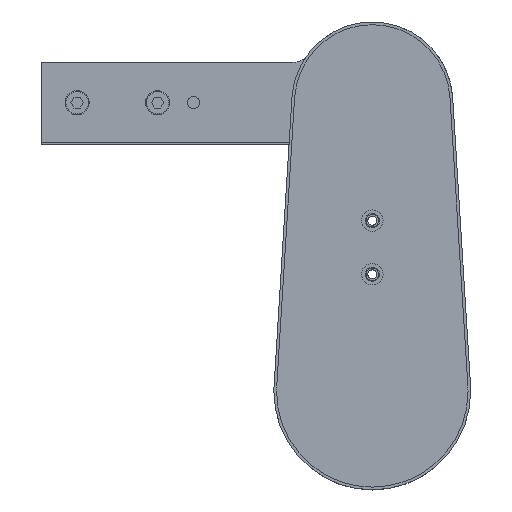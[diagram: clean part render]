
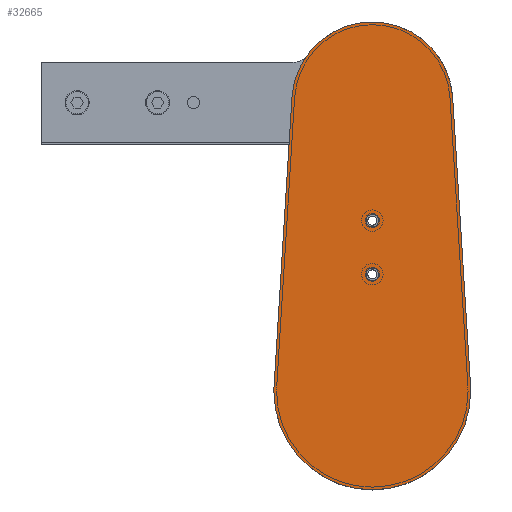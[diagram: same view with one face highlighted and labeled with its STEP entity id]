
A CAD part, top view. The second image highlights one B-rep face of the part: STEP entity #32665.
In plain terms, the highlighted planar face has unit normal (0, 0, 1) as drawn and (0, 0, -1) by its records, which use the part's own axes.
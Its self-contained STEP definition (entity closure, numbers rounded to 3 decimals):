
#63 = DIRECTION ( 'NONE',  ( 0., 0., 1. ) ) ;
#346 = CARTESIAN_POINT ( 'NONE',  ( 3.5, 65.5, 0. ) ) ;
#546 = LINE ( 'NONE', #58924, #76427 ) ;
#1185 = CIRCLE ( 'NONE', #63719, 3.5 ) ;
#1429 = DIRECTION ( 'NONE',  ( 0., 0., -1. ) ) ;
#2747 = VERTEX_POINT ( 'NONE', #26529 ) ;
#4205 = AXIS2_PLACEMENT_3D ( 'NONE', #32226, #63354, #25616 ) ;
#4564 = ORIENTED_EDGE ( 'NONE', *, *, #29094, .F. ) ;
#8825 = CARTESIAN_POINT ( 'NONE',  ( -3.5, 95.5, 0. ) ) ;
#9087 = DIRECTION ( 'NONE',  ( -0.062, -0.998, 0. ) ) ;
#10359 = VERTEX_POINT ( 'NONE', #75363 ) ;
#10367 = DIRECTION ( 'NONE',  ( 0., 0., -1. ) ) ;
#10484 = EDGE_CURVE ( 'NONE', #2747, #52591, #33472, .T. ) ;
#12067 = ORIENTED_EDGE ( 'NONE', *, *, #10484, .F. ) ;
#12621 = AXIS2_PLACEMENT_3D ( 'NONE', #74796, #81143, #45019 ) ;
#12798 = DIRECTION ( 'NONE',  ( 1., 0., 0. ) ) ;
#12806 = CARTESIAN_POINT ( 'NONE',  ( 0., 95.5, 0. ) ) ;
#14133 = CARTESIAN_POINT ( 'NONE',  ( 0., 161.5, 0. ) ) ;
#15037 = AXIS2_PLACEMENT_3D ( 'NONE', #14133, #70785, #64764 ) ;
#20277 = VERTEX_POINT ( 'NONE', #8825 ) ;
#20291 = EDGE_CURVE ( 'NONE', #36139, #2747, #546, .T. ) ;
#20722 = CARTESIAN_POINT ( 'NONE',  ( 0., 65.5, 0. ) ) ;
#21751 = CIRCLE ( 'NONE', #47002, 3.5 ) ;
#21978 = EDGE_LOOP ( 'NONE', ( #38850, #40566, #4564, #53819, #12067, #46138 ) ) ;
#23803 = EDGE_CURVE ( 'NONE', #66518, #70342, #53024, .T. ) ;
#25616 = DIRECTION ( 'NONE',  ( 1., 0., 0. ) ) ;
#25821 = ORIENTED_EDGE ( 'NONE', *, *, #28563, .F. ) ;
#26529 = CARTESIAN_POINT ( 'NONE',  ( -54.894, 3.406, 0. ) ) ;
#28390 = CIRCLE ( 'NONE', #12621, 55. ) ;
#28563 = EDGE_CURVE ( 'NONE', #71960, #10359, #1185, .T. ) ;
#29094 = EDGE_CURVE ( 'NONE', #45259, #66518, #72996, .T. ) ;
#30238 = CARTESIAN_POINT ( 'NONE',  ( 3.5, 95.5, 0. ) ) ;
#31252 = CARTESIAN_POINT ( 'NONE',  ( 55., 0., 0. ) ) ;
#31487 = ORIENTED_EDGE ( 'NONE', *, *, #71666, .F. ) ;
#32226 = CARTESIAN_POINT ( 'NONE',  ( 0., 65.5, 0. ) ) ;
#32665 = ADVANCED_FACE ( 'NONE', ( #67751, #39125, #64784 ), #76577, .F. ) ;
#33084 = DIRECTION ( 'NONE',  ( 1., 0., 0. ) ) ;
#33472 = CIRCLE ( 'NONE', #81761, 55. ) ;
#34082 = ORIENTED_EDGE ( 'NONE', *, *, #69785, .F. ) ;
#36139 = VERTEX_POINT ( 'NONE', #49515 ) ;
#36191 = DIRECTION ( 'NONE',  ( 1., 0., 0. ) ) ;
#36254 = CIRCLE ( 'NONE', #56260, 3.5 ) ;
#37276 = CIRCLE ( 'NONE', #4205, 3.5 ) ;
#38850 = ORIENTED_EDGE ( 'NONE', *, *, #55080, .F. ) ;
#39077 = CIRCLE ( 'NONE', #44079, 45. ) ;
#39125 = FACE_BOUND ( 'NONE', #52758, .T. ) ;
#40566 = ORIENTED_EDGE ( 'NONE', *, *, #23803, .F. ) ;
#40891 = CARTESIAN_POINT ( 'NONE',  ( 44.914, 164.286, 0. ) ) ;
#41570 = EDGE_CURVE ( 'NONE', #20277, #72533, #36254, .T. ) ;
#43096 = VECTOR ( 'NONE', #48266, 1000. ) ;
#44079 = AXIS2_PLACEMENT_3D ( 'NONE', #50468, #63, #12798 ) ;
#44140 = DIRECTION ( 'NONE',  ( 1., 0., 0. ) ) ;
#45019 = DIRECTION ( 'NONE',  ( 1., 0., 0. ) ) ;
#45259 = VERTEX_POINT ( 'NONE', #31252 ) ;
#45593 = DIRECTION ( 'NONE',  ( 1., 0., 0. ) ) ;
#45646 = CARTESIAN_POINT ( 'NONE',  ( -55., 0., 0. ) ) ;
#46138 = ORIENTED_EDGE ( 'NONE', *, *, #20291, .F. ) ;
#47002 = AXIS2_PLACEMENT_3D ( 'NONE', #66803, #10367, #36191 ) ;
#47283 = DIRECTION ( 'NONE',  ( 0., 0., 1. ) ) ;
#48266 = DIRECTION ( 'NONE',  ( -0.062, 0.998, 0. ) ) ;
#49515 = CARTESIAN_POINT ( 'NONE',  ( -44.914, 164.286, 0. ) ) ;
#50210 = DIRECTION ( 'NONE',  ( 0., 0., -1. ) ) ;
#50468 = CARTESIAN_POINT ( 'NONE',  ( 0., 161.5, 0. ) ) ;
#52510 = CARTESIAN_POINT ( 'NONE',  ( 0., 0., 0. ) ) ;
#52591 = VERTEX_POINT ( 'NONE', #45646 ) ;
#52758 = EDGE_LOOP ( 'NONE', ( #25821, #34082 ) ) ;
#53024 = LINE ( 'NONE', #66709, #43096 ) ;
#53645 = DIRECTION ( 'NONE',  ( 1., 0., 0. ) ) ;
#53819 = ORIENTED_EDGE ( 'NONE', *, *, #77948, .F. ) ;
#55080 = EDGE_CURVE ( 'NONE', #70342, #36139, #39077, .T. ) ;
#56260 = AXIS2_PLACEMENT_3D ( 'NONE', #12806, #50210, #44140 ) ;
#58924 = CARTESIAN_POINT ( 'NONE',  ( -44.914, 164.286, 0. ) ) ;
#63354 = DIRECTION ( 'NONE',  ( 0., 0., -1. ) ) ;
#63719 = AXIS2_PLACEMENT_3D ( 'NONE', #20722, #1429, #33084 ) ;
#64764 = DIRECTION ( 'NONE',  ( 1., 0., 0. ) ) ;
#64784 = FACE_OUTER_BOUND ( 'NONE', #21978, .T. ) ;
#66518 = VERTEX_POINT ( 'NONE', #75924 ) ;
#66709 = CARTESIAN_POINT ( 'NONE',  ( 44.914, 164.286, 0. ) ) ;
#66803 = CARTESIAN_POINT ( 'NONE',  ( 0., 95.5, 0. ) ) ;
#67188 = ORIENTED_EDGE ( 'NONE', *, *, #41570, .F. ) ;
#67467 = AXIS2_PLACEMENT_3D ( 'NONE', #78684, #47283, #53645 ) ;
#67751 = FACE_BOUND ( 'NONE', #77319, .T. ) ;
#69785 = EDGE_CURVE ( 'NONE', #10359, #71960, #37276, .T. ) ;
#70342 = VERTEX_POINT ( 'NONE', #40891 ) ;
#70785 = DIRECTION ( 'NONE',  ( 0., 0., 1. ) ) ;
#71666 = EDGE_CURVE ( 'NONE', #72533, #20277, #21751, .T. ) ;
#71960 = VERTEX_POINT ( 'NONE', #346 ) ;
#72533 = VERTEX_POINT ( 'NONE', #30238 ) ;
#72996 = CIRCLE ( 'NONE', #67467, 55. ) ;
#74796 = CARTESIAN_POINT ( 'NONE',  ( 0., 0., 0. ) ) ;
#75363 = CARTESIAN_POINT ( 'NONE',  ( -3.5, 65.5, 0. ) ) ;
#75924 = CARTESIAN_POINT ( 'NONE',  ( 54.894, 3.406, 0. ) ) ;
#76427 = VECTOR ( 'NONE', #9087, 1000. ) ;
#76577 = PLANE ( 'NONE',  #15037 ) ;
#76997 = DIRECTION ( 'NONE',  ( 0., 0., 1. ) ) ;
#77319 = EDGE_LOOP ( 'NONE', ( #31487, #67188 ) ) ;
#77948 = EDGE_CURVE ( 'NONE', #52591, #45259, #28390, .T. ) ;
#78684 = CARTESIAN_POINT ( 'NONE',  ( 0., 0., 0. ) ) ;
#81143 = DIRECTION ( 'NONE',  ( 0., 0., 1. ) ) ;
#81761 = AXIS2_PLACEMENT_3D ( 'NONE', #52510, #76997, #45593 ) ;
